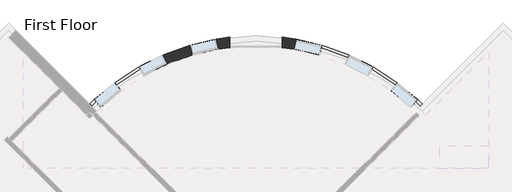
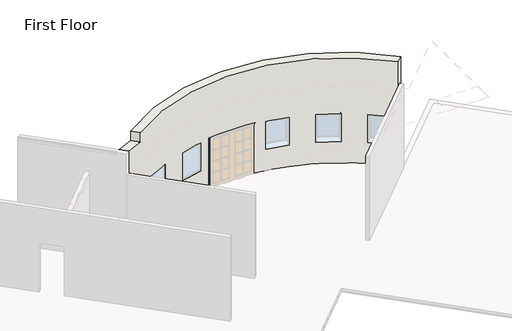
# One storey, part 5 of 7: 1 wall.
"""IFC4 building model written with IfcOpenShell, lengths in millimetres."""

from ifc_helpers import new_model, si_unit, frame, origin, place, context, project, spatial, polyline, circle_curve, ellipse_curve, element, save
from ifc_brep_helpers import plane_surface, cylinder_surface, revolved_surface, advanced_brep

model = new_model("IFC4")

# Units and contexts
model_context = context("Model", 3, world=origin())
ifc_project = project(units=[si_unit("LENGTHUNIT", "METRE", prefix="MILLI")], contexts=[model_context])

# Site, building, storey
site = spatial("IfcSite", under=ifc_project)
building = spatial("IfcBuilding", under=site)
storey = spatial("IfcBuildingStorey", under=building, Name="First Floor", Elevation=0.0)

# Wall
placement = place(None, origin())
element("IfcWall", 1, ObjectType="Exterior - Split Face and CMU on Mtl. Stud", at=placement, inside=storey, context=model_context, shape_type="AdvancedBrep", body=[
    advanced_brep(
    [(-7732.4664887, 9541.1807277, 4572.0), (2926.4294954, 8746.9912878, 4572.0), (2926.4294954, 8746.9912878, 3251.2), (-8662.486224, 8746.9912878, 3251.2), (-8662.486224, 8746.9912878, 4572.0), (-7732.4664887, 9541.1807277, 4165.6), (-3783.1764381, 11081.700582, 0.0), (-8662.486224, 8746.9912878, 0.0), (-8662.486224, 8746.9912878, 1016.0), (-8500.5279216, 8903.2474265, 1016.0), (-8500.5279216, 8903.2474265, 914.4), (-7800.1106469, 9491.0764845, 914.4), (-7800.1106469, 9491.0764845, 1016.0), (-6944.2047205, 10052.3449451, 1016.0), (-6944.2047205, 10052.3449451, 914.4), (-6125.9140626, 10460.4230739, 914.4), (-6125.9140626, 10460.4230739, 1016.0), (-5162.631365, 10806.3763718, 1016.0), (-5162.631365, 10806.3763718, 914.4), (-4271.6861959, 11012.153109, 914.4), (-4271.6861959, 11012.153109, 1016.0), (-3783.1764381, 11081.700582, 1016.0), (2926.4294954, 8746.9912878, 0.0), (-1954.3764458, 11081.8678573, 0.0), (-1954.3764458, 11081.8678573, 1016.0), (-1464.3705327, 11012.153109, 1016.0), (-1464.3705327, 11012.153109, 914.4), (-573.4253636, 10806.3763718, 914.4), (-573.4253636, 10806.3763718, 1016.0), (389.857334, 10460.4230739, 1016.0), (389.857334, 10460.4230739, 914.4), (1208.1479919, 10052.3449451, 914.4), (1208.1479919, 10052.3449451, 1016.0), (2064.0539183, 9491.0764845, 1016.0), (2064.0539183, 9491.0764845, 914.4), (2764.471193, 8903.2474265, 914.4), (2764.471193, 8903.2474265, 1016.0), (2926.4294954, 8746.9912878, 1016.0), (-1954.3764458, 11081.8678573, 2133.6), (-3783.1764381, 11081.700582, 2133.6), (-3783.1764381, 11081.700582, 2336.8), (-4271.6861959, 11012.153109, 2336.8), (-4271.6861959, 11012.153109, 2133.6), (-5162.631365, 10806.3763718, 2133.6), (-5162.631365, 10806.3763718, 2336.8), (-6125.9140626, 10460.4230739, 2336.8), (-6125.9140626, 10460.4230739, 2133.6), (-6944.2047205, 10052.3449451, 2133.6), (-6944.2047205, 10052.3449451, 2336.8), (-7800.1106469, 9491.0764845, 2336.8), (-7800.1106469, 9491.0764845, 2133.6), (-8500.5279216, 8903.2474265, 2133.6), (-8500.5279216, 8903.2474265, 2336.8), (-8662.486224, 8746.9912878, 2336.8), (-8662.486224, 8746.9912878, 3048.0), (2926.4294954, 8746.9912878, 3048.0), (2926.4294954, 8746.9912878, 2336.8), (2764.471193, 8903.2474265, 2336.8), (2764.471193, 8903.2474265, 2133.6), (2064.0539183, 9491.0764845, 2133.6), (2064.0539183, 9491.0764845, 2336.8), (1208.1479919, 10052.3449451, 2336.8), (1208.1479919, 10052.3449451, 2133.6), (389.857334, 10460.4230739, 2133.6), (389.857334, 10460.4230739, 2336.8), (-573.4253636, 10806.3763718, 2336.8), (-573.4253636, 10806.3763718, 2133.6), (-1464.3705327, 11012.153109, 2133.6), (-1464.3705327, 11012.153109, 2336.8), (-1954.3764458, 11081.8678573, 2336.8), (-1954.3764458, 11081.8678573, 1085.85), (-1954.3764458, 11081.8678573, 2133.6), (-1464.3705327, 11012.153109, 2133.6), (-1464.3705327, 11012.153109, 1085.85), (-3783.1764381, 11081.700582, 2133.6), (-3783.1764381, 11081.700582, 1085.85), (-4271.6861959, 11012.153109, 1085.85), (-4271.6861959, 11012.153109, 2133.6), (389.857334, 10460.4230739, 2133.6), (389.857334, 10460.4230739, 1085.85), (-573.4253636, 10806.3763718, 1085.85), (-573.4253636, 10806.3763718, 2133.6), (1208.1479919, 10052.3449451, 1085.85), (1208.1479919, 10052.3449451, 2133.6), (2064.0539183, 9491.0764845, 2133.6), (2064.0539183, 9491.0764845, 1085.85), (2764.471193, 8903.2474265, 1085.85), (2764.471193, 8903.2474265, 2133.6), (2926.4294954, 8746.9912878, 2133.6), (2926.4294954, 8746.9912878, 1085.85), (-6944.2047205, 10052.3449451, 2133.6), (-6944.2047205, 10052.3449451, 1085.85), (-7800.1106469, 9491.0764845, 1085.85), (-7800.1106469, 9491.0764845, 2133.6), (-6125.9140626, 10460.4230739, 1085.85), (-6125.9140626, 10460.4230739, 2133.6), (-5162.631365, 10806.3763718, 2133.6), (-5162.631365, 10806.3763718, 1085.85), (-8500.5279216, 8903.2474265, 2133.6), (-8500.5279216, 8903.2474265, 1085.85), (-8662.486224, 8746.9912878, 1085.85), (-8662.486224, 8746.9912878, 2133.6), (2677.2250436, 8497.7868359, 0.0), (2677.2250436, 8497.7868359, 4165.6), (2677.2250436, 8497.7868359, 4572.0), (-7480.1850855, 9288.8993245, 4572.0), (-7480.1850855, 9288.8993245, 4165.6), (-8413.2817722, 8497.7868359, 4572.0), (-8413.2817722, 8497.7868359, 0.0), (-3783.1439929, 10726.9805509, 0.0), (-3783.1439929, 10726.9805509, 2133.6), (-1954.3440005, 10727.1478261, 2133.6), (-1954.3440005, 10727.1478261, 0.0), (232.3230312, 10144.5305053, 914.4), (232.3230312, 10144.5305053, 2133.6), (1050.6136891, 9736.4523766, 2133.6), (1050.6136891, 9736.4523766, 914.4), (-1543.8084946, 10668.2130246, 914.4), (-1543.8084946, 10668.2130246, 2133.6), (-652.8633255, 10462.4362874, 2133.6), (-652.8633255, 10462.4362874, 914.4), (1837.1286453, 9220.6877054, 914.4), (1837.1286453, 9220.6877054, 2133.6), (2537.5459199, 8632.8586475, 2133.6), (2537.5459199, 8632.8586475, 914.4), (-6786.6704177, 9736.4523766, 914.4), (-6786.6704177, 9736.4523766, 2133.6), (-5968.3797598, 10144.5305053, 2133.6), (-5968.3797598, 10144.5305053, 914.4), (-5083.1934032, 10462.4362874, 914.4), (-5083.1934032, 10462.4362874, 2133.6), (-4192.248234, 10668.2130246, 2133.6), (-4192.248234, 10668.2130246, 914.4), (-8273.6026485, 8632.8586475, 914.4), (-8273.6026485, 8632.8586475, 2133.6), (-7573.1853739, 9220.6877054, 2133.6), (-7573.1853739, 9220.6877054, 914.4), (2861.3220456, 8681.8838379, 1016.0), (2861.3220456, 8681.8838379, 1085.85), (2861.3220456, 8681.8838379, 2133.6), (2861.3220456, 8681.8838379, 2336.8), (2861.3220456, 8681.8838379, 3048.0), (2861.3220456, 8681.8838379, 3251.2), (-8597.3787742, 8681.8838379, 3251.2), (-8597.3787742, 8681.8838379, 3048.0), (-8597.3787742, 8681.8838379, 2336.8), (-8597.3787742, 8681.8838379, 2133.6), (-8597.3787742, 8681.8838379, 1085.85), (-8597.3787742, 8681.8838379, 1016.0), (-3783.1679632, 10989.045348, 1016.0), (-3783.1679632, 10989.045348, 1085.85), (-3783.1679632, 10989.045348, 2133.6), (-1964.5986316, 10990.3620512, 2133.6), (-1954.3679708, 10989.2126232, 2133.6), (-3772.9375129, 10990.1966475, 2133.6), (-1954.3679708, 10989.2126232, 1085.85), (-1954.3679708, 10989.2126232, 1016.0), (348.7018531, 10377.8968537, 1016.0), (348.7018531, 10377.8968537, 1085.85), (348.7018531, 10377.8968537, 2133.6), (1166.992511, 9969.8187249, 2133.6), (1166.992511, 9969.8187249, 1085.85), (1166.992511, 9969.8187249, 1016.0), (1162.5426237, 9972.357721, 2133.6), (353.4072239, 10375.8701608, 2133.6), (-1485.1235209, 10922.2995387, 1016.0), (-1485.1235209, 10922.2995387, 1085.85), (-1485.1235209, 10922.2995387, 2133.6), (-594.1783517, 10716.5228014, 2133.6), (-594.1783517, 10716.5228014, 1085.85), (-594.1783517, 10716.5228014, 1016.0), (-599.0980052, 10717.9528393, 2133.6), (-1480.0750378, 10921.4272905, 2133.6), (2004.7702032, 9420.4380266, 1016.0), (2004.7702032, 9420.4380266, 1085.85), (2004.7702032, 9420.4380266, 2133.6), (2705.1874778, 8832.6089686, 2133.6), (2705.1874778, 8832.6089686, 1085.85), (2705.1874778, 8832.6089686, 1016.0), (2701.4532581, 8836.1166176, 2133.6), (2008.8724422, 9417.3688844, 2133.6), (-6903.0492396, 9969.8187249, 1016.0), (-6903.0492396, 9969.8187249, 1085.85), (-6903.0492396, 9969.8187249, 2133.6), (-6084.7585817, 10377.8968537, 2133.6), (-6084.7585817, 10377.8968537, 1085.85), (-6084.7585817, 10377.8968537, 1016.0), (-6089.4639525, 10375.8701608, 2133.6), (-6898.5993523, 9972.357721, 2133.6), (-5141.8783769, 10716.5228014, 1016.0), (-5141.8783769, 10716.5228014, 1085.85), (-5141.8783769, 10716.5228014, 2133.6), (-4250.9332077, 10922.2995387, 2133.6), (-4250.9332077, 10922.2995387, 1085.85), (-4250.9332077, 10922.2995387, 1016.0), (-4255.9816908, 10921.4272905, 2133.6), (-5136.9587234, 10717.9528393, 2133.6), (-8441.2442064, 8832.6089686, 1016.0), (-8441.2442064, 8832.6089686, 1085.85), (-8441.2442064, 8832.6089686, 2133.6), (-7740.8269318, 9420.4380266, 2133.6), (-7740.8269318, 9420.4380266, 1085.85), (-7740.8269318, 9420.4380266, 1016.0), (-7744.9291708, 9417.3688844, 2133.6), (-8437.5099867, 8836.1166176, 2133.6), (-8437.5099867, 8836.1166176, 2336.8), (-7744.9291708, 9417.3688844, 2336.8), (-6898.5993523, 9972.357721, 2336.8), (-6089.4639525, 10375.8701608, 2336.8), (-5136.9587234, 10717.9528393, 2336.8), (-4255.9816908, 10921.4272905, 2336.8), (-3772.9375129, 10990.1966475, 2336.8), (-1964.5986316, 10990.3620512, 2336.8), (-1480.0750378, 10921.4272905, 2336.8), (-599.0980052, 10717.9528393, 2336.8), (353.4072239, 10375.8701608, 2336.8), (1162.5426237, 9972.357721, 2336.8), (2008.8724422, 9417.3688844, 2336.8), (2701.4532581, 8836.1166176, 2336.8)],
    [
        (0, 1, circle_curve(frame((-2868.0283643, 2903.1420194, 4572.0), z_axis=(0.0, 0.0, -1.0), x_axis=(1.0, 0.0, 0.0)), 8229.6)),
        (1, 2),
        (2, 3, circle_curve(frame((-2868.0283643, 2903.1420194, 3251.2), z_axis=(0.0, 0.0, 1.0), x_axis=(1.0, 0.0, 0.0)), 8229.6)),
        (3, 4),
        (4, 5, ellipse_curve(frame((-2868.0283643, 2903.1420194, 4583.6416667), z_axis=(-0.2236067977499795, -0.22360679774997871, -0.9486832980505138), x_axis=(-0.6708203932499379, -0.6708203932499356, 0.31622776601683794)), 8674.7600774, 8229.6)),
        (5, 0),
        (6, 7, circle_curve(frame((-2868.0283643, 2903.1420194, 0.0), z_axis=(0.0, 0.0, 1.0), x_axis=(1.0, 0.0, 0.0)), 8229.6)),
        (7, 8),
        (8, 9, circle_curve(frame((-2868.0283643, 2903.1420194, 1016.0), z_axis=(0.0, 0.0, -1.0), x_axis=(1.0, 0.0, 0.0)), 8229.6)),
        (9, 10),
        (10, 11, circle_curve(frame((-2868.0283643, 2903.1420194, 914.4), z_axis=(0.0, 0.0, -1.0), x_axis=(1.0, 0.0, 0.0)), 8229.6)),
        (11, 12),
        (12, 13, circle_curve(frame((-2868.0283643, 2903.1420194, 1016.0), z_axis=(0.0, 0.0, -1.0), x_axis=(1.0, 0.0, 0.0)), 8229.6)),
        (13, 14),
        (14, 15, circle_curve(frame((-2868.0283643, 2903.1420194, 914.4), z_axis=(0.0, 0.0, -1.0), x_axis=(1.0, 0.0, 0.0)), 8229.6)),
        (15, 16),
        (16, 17, circle_curve(frame((-2868.0283643, 2903.1420194, 1016.0), z_axis=(0.0, 0.0, -1.0), x_axis=(1.0, 0.0, 0.0)), 8229.6)),
        (17, 18),
        (18, 19, circle_curve(frame((-2868.0283643, 2903.1420194, 914.4), z_axis=(0.0, 0.0, -1.0), x_axis=(1.0, 0.0, 0.0)), 8229.6)),
        (19, 20),
        (20, 21, circle_curve(frame((-2868.0283643, 2903.1420194, 1016.0), z_axis=(0.0, 0.0, -1.0), x_axis=(1.0, 0.0, 0.0)), 8229.6)),
        (21, 6),
        (22, 23, circle_curve(frame((-2868.0283643, 2903.1420194, 0.0), z_axis=(0.0, 0.0, 1.0), x_axis=(1.0, 0.0, 0.0)), 8229.6)),
        (23, 24),
        (24, 25, circle_curve(frame((-2868.0283643, 2903.1420194, 1016.0), z_axis=(0.0, 0.0, -1.0), x_axis=(1.0, 0.0, 0.0)), 8229.6)),
        (25, 26),
        (26, 27, circle_curve(frame((-2868.0283643, 2903.1420194, 914.4), z_axis=(0.0, 0.0, -1.0), x_axis=(1.0, 0.0, 0.0)), 8229.6)),
        (27, 28),
        (28, 29, circle_curve(frame((-2868.0283643, 2903.1420194, 1016.0), z_axis=(0.0, 0.0, -1.0), x_axis=(1.0, 0.0, 0.0)), 8229.6)),
        (29, 30),
        (30, 31, circle_curve(frame((-2868.0283643, 2903.1420194, 914.4), z_axis=(0.0, 0.0, -1.0), x_axis=(1.0, 0.0, 0.0)), 8229.6)),
        (31, 32),
        (32, 33, circle_curve(frame((-2868.0283643, 2903.1420194, 1016.0), z_axis=(0.0, 0.0, -1.0), x_axis=(1.0, 0.0, 0.0)), 8229.6)),
        (33, 34),
        (34, 35, circle_curve(frame((-2868.0283643, 2903.1420194, 914.4), z_axis=(0.0, 0.0, -1.0), x_axis=(1.0, 0.0, 0.0)), 8229.6)),
        (35, 36),
        (36, 37, circle_curve(frame((-2868.0283643, 2903.1420194, 1016.0), z_axis=(0.0, 0.0, -1.0), x_axis=(1.0, 0.0, 0.0)), 8229.6)),
        (37, 22),
        (38, 39, circle_curve(frame((-2868.0283643, 2903.1420194, 2133.6), z_axis=(0.0, 0.0, 1.0), x_axis=(1.0, 0.0, 0.0)), 8229.6)),
        (39, 40),
        (40, 41, circle_curve(frame((-2868.0283643, 2903.1420194, 2336.8), z_axis=(0.0, 0.0, 1.0), x_axis=(1.0, 0.0, 0.0)), 8229.6)),
        (41, 42),
        (42, 43, circle_curve(frame((-2868.0283643, 2903.1420194, 2133.6), z_axis=(0.0, 0.0, 1.0), x_axis=(1.0, 0.0, 0.0)), 8229.6)),
        (43, 44),
        (44, 45, circle_curve(frame((-2868.0283643, 2903.1420194, 2336.8), z_axis=(0.0, 0.0, 1.0), x_axis=(1.0, 0.0, 0.0)), 8229.6)),
        (45, 46),
        (46, 47, circle_curve(frame((-2868.0283643, 2903.1420194, 2133.6), z_axis=(0.0, 0.0, 1.0), x_axis=(1.0, 0.0, 0.0)), 8229.6)),
        (47, 48),
        (48, 49, circle_curve(frame((-2868.0283643, 2903.1420194, 2336.8), z_axis=(0.0, 0.0, 1.0), x_axis=(1.0, 0.0, 0.0)), 8229.6)),
        (49, 50),
        (50, 51, circle_curve(frame((-2868.0283643, 2903.1420194, 2133.6), z_axis=(0.0, 0.0, 1.0), x_axis=(1.0, 0.0, 0.0)), 8229.6)),
        (51, 52),
        (52, 53, circle_curve(frame((-2868.0283643, 2903.1420194, 2336.8), z_axis=(0.0, 0.0, 1.0), x_axis=(1.0, 0.0, 0.0)), 8229.6)),
        (53, 54),
        (54, 55, circle_curve(frame((-2868.0283643, 2903.1420194, 3048.0), z_axis=(0.0, 0.0, -1.0), x_axis=(1.0, 0.0, 0.0)), 8229.6)),
        (55, 56),
        (56, 57, circle_curve(frame((-2868.0283643, 2903.1420194, 2336.8), z_axis=(0.0, 0.0, 1.0), x_axis=(1.0, 0.0, 0.0)), 8229.6)),
        (57, 58),
        (58, 59, circle_curve(frame((-2868.0283643, 2903.1420194, 2133.6), z_axis=(0.0, 0.0, 1.0), x_axis=(1.0, 0.0, 0.0)), 8229.6)),
        (59, 60),
        (60, 61, circle_curve(frame((-2868.0283643, 2903.1420194, 2336.8), z_axis=(0.0, 0.0, 1.0), x_axis=(1.0, 0.0, 0.0)), 8229.6)),
        (61, 62),
        (62, 63, circle_curve(frame((-2868.0283643, 2903.1420194, 2133.6), z_axis=(0.0, 0.0, 1.0), x_axis=(1.0, 0.0, 0.0)), 8229.6)),
        (63, 64),
        (64, 65, circle_curve(frame((-2868.0283643, 2903.1420194, 2336.8), z_axis=(0.0, 0.0, 1.0), x_axis=(1.0, 0.0, 0.0)), 8229.6)),
        (65, 66),
        (66, 67, circle_curve(frame((-2868.0283643, 2903.1420194, 2133.6), z_axis=(0.0, 0.0, 1.0), x_axis=(1.0, 0.0, 0.0)), 8229.6)),
        (67, 68),
        (68, 69, circle_curve(frame((-2868.0283643, 2903.1420194, 2336.8), z_axis=(0.0, 0.0, 1.0), x_axis=(1.0, 0.0, 0.0)), 8229.6)),
        (69, 38),
        (70, 71),
        (71, 72, circle_curve(frame((-2868.0283643, 2903.1420194, 2133.6), z_axis=(0.0, 0.0, -1.0), x_axis=(1.0, 0.0, 0.0)), 8229.6)),
        (72, 73),
        (73, 70, circle_curve(frame((-2868.0283643, 2903.1420194, 1085.85), z_axis=(0.0, 0.0, 1.0), x_axis=(1.0, 0.0, 0.0)), 8229.6)),
        (74, 75),
        (75, 76, circle_curve(frame((-2868.0283643, 2903.1420194, 1085.85), z_axis=(0.0, 0.0, 1.0), x_axis=(1.0, 0.0, 0.0)), 8229.6)),
        (76, 77),
        (77, 74, circle_curve(frame((-2868.0283643, 2903.1420194, 2133.6), z_axis=(0.0, 0.0, -1.0), x_axis=(1.0, 0.0, 0.0)), 8229.6)),
        (78, 79),
        (79, 80, circle_curve(frame((-2868.0283643, 2903.1420194, 1085.85), z_axis=(0.0, 0.0, 1.0), x_axis=(1.0, 0.0, 0.0)), 8229.6)),
        (80, 81),
        (81, 78, circle_curve(frame((-2868.0283643, 2903.1420194, 2133.6), z_axis=(0.0, 0.0, -1.0), x_axis=(1.0, 0.0, 0.0)), 8229.6)),
        (82, 83),
        (83, 84, circle_curve(frame((-2868.0283643, 2903.1420194, 2133.6), z_axis=(0.0, 0.0, -1.0), x_axis=(1.0, 0.0, 0.0)), 8229.6)),
        (84, 85),
        (85, 82, circle_curve(frame((-2868.0283643, 2903.1420194, 1085.85), z_axis=(0.0, 0.0, 1.0), x_axis=(1.0, 0.0, 0.0)), 8229.6)),
        (86, 87),
        (87, 88, circle_curve(frame((-2868.0283643, 2903.1420194, 2133.6), z_axis=(0.0, 0.0, -1.0), x_axis=(1.0, 0.0, 0.0)), 8229.6)),
        (88, 89),
        (89, 86, circle_curve(frame((-2868.0283643, 2903.1420194, 1085.85), z_axis=(0.0, 0.0, 1.0), x_axis=(1.0, 0.0, 0.0)), 8229.6)),
        (90, 91),
        (91, 92, circle_curve(frame((-2868.0283643, 2903.1420194, 1085.85), z_axis=(0.0, 0.0, 1.0), x_axis=(1.0, 0.0, 0.0)), 8229.6)),
        (92, 93),
        (93, 90, circle_curve(frame((-2868.0283643, 2903.1420194, 2133.6), z_axis=(0.0, 0.0, -1.0), x_axis=(1.0, 0.0, 0.0)), 8229.6)),
        (94, 95),
        (95, 96, circle_curve(frame((-2868.0283643, 2903.1420194, 2133.6), z_axis=(0.0, 0.0, -1.0), x_axis=(1.0, 0.0, 0.0)), 8229.6)),
        (96, 97),
        (97, 94, circle_curve(frame((-2868.0283643, 2903.1420194, 1085.85), z_axis=(0.0, 0.0, 1.0), x_axis=(1.0, 0.0, 0.0)), 8229.6)),
        (98, 99),
        (99, 100, circle_curve(frame((-2868.0283643, 2903.1420194, 1085.85), z_axis=(0.0, 0.0, 1.0), x_axis=(1.0, 0.0, 0.0)), 8229.6)),
        (100, 101),
        (101, 98, circle_curve(frame((-2868.0283643, 2903.1420194, 2133.6), z_axis=(0.0, 0.0, -1.0), x_axis=(1.0, 0.0, 0.0)), 8229.6)),
        (102, 103),
        (103, 104),
        (104, 105, circle_curve(frame((-2868.0283643, 2903.1420194, 4572.0), z_axis=(0.0, 0.0, 1.0), x_axis=(1.0, 0.0, 0.0)), 7877.175)),
        (105, 106),
        (106, 107, ellipse_curve(frame((-2868.0283643, 2903.1420194, 4583.6416667), z_axis=(0.2236067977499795, 0.22360679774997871, 0.9486832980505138), x_axis=(0.6708203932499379, 0.6708203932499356, -0.31622776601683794)), 8303.2715092, 7877.175)),
        (107, 108),
        (108, 109, circle_curve(frame((-2868.0283643, 2903.1420194, 0.0), z_axis=(0.0, 0.0, -1.0), x_axis=(1.0, 0.0, 0.0)), 7877.175)),
        (109, 110),
        (110, 111, circle_curve(frame((-2868.0283643, 2903.1420194, 2133.6), z_axis=(0.0, 0.0, -1.0), x_axis=(1.0, 0.0, 0.0)), 7877.175)),
        (111, 112),
        (112, 102, circle_curve(frame((-2868.0283643, 2903.1420194, 0.0), z_axis=(0.0, 0.0, -1.0), x_axis=(1.0, 0.0, 0.0)), 7877.175)),
        (113, 114),
        (114, 115, circle_curve(frame((-2868.0283643, 2903.1420194, 2133.6), z_axis=(0.0, 0.0, -1.0), x_axis=(1.0, 0.0, 0.0)), 7877.175)),
        (115, 116),
        (116, 113, circle_curve(frame((-2868.0283643, 2903.1420194, 914.4), z_axis=(0.0, 0.0, 1.0), x_axis=(1.0, 0.0, 0.0)), 7877.175)),
        (117, 118),
        (118, 119, circle_curve(frame((-2868.0283643, 2903.1420194, 2133.6), z_axis=(0.0, 0.0, -1.0), x_axis=(1.0, 0.0, 0.0)), 7877.175)),
        (119, 120),
        (120, 117, circle_curve(frame((-2868.0283643, 2903.1420194, 914.4), z_axis=(0.0, 0.0, 1.0), x_axis=(1.0, 0.0, 0.0)), 7877.175)),
        (121, 122),
        (122, 123, circle_curve(frame((-2868.0283643, 2903.1420194, 2133.6), z_axis=(0.0, 0.0, -1.0), x_axis=(1.0, 0.0, 0.0)), 7877.175)),
        (123, 124),
        (124, 121, circle_curve(frame((-2868.0283643, 2903.1420194, 914.4), z_axis=(0.0, 0.0, 1.0), x_axis=(1.0, 0.0, 0.0)), 7877.175)),
        (125, 126),
        (126, 127, circle_curve(frame((-2868.0283643, 2903.1420194, 2133.6), z_axis=(0.0, 0.0, -1.0), x_axis=(1.0, 0.0, 0.0)), 7877.175)),
        (127, 128),
        (128, 125, circle_curve(frame((-2868.0283643, 2903.1420194, 914.4), z_axis=(0.0, 0.0, 1.0), x_axis=(1.0, 0.0, 0.0)), 7877.175)),
        (129, 130),
        (130, 131, circle_curve(frame((-2868.0283643, 2903.1420194, 2133.6), z_axis=(0.0, 0.0, -1.0), x_axis=(1.0, 0.0, 0.0)), 7877.175)),
        (131, 132),
        (132, 129, circle_curve(frame((-2868.0283643, 2903.1420194, 914.4), z_axis=(0.0, 0.0, 1.0), x_axis=(1.0, 0.0, 0.0)), 7877.175)),
        (133, 134),
        (134, 135, circle_curve(frame((-2868.0283643, 2903.1420194, 2133.6), z_axis=(0.0, 0.0, -1.0), x_axis=(1.0, 0.0, 0.0)), 7877.175)),
        (135, 136),
        (136, 133, circle_curve(frame((-2868.0283643, 2903.1420194, 914.4), z_axis=(0.0, 0.0, 1.0), x_axis=(1.0, 0.0, 0.0)), 7877.175)),
        (1, 104),
        (102, 22),
        (37, 137),
        (137, 138),
        (138, 89),
        (88, 139),
        (139, 140),
        (140, 56),
        (55, 141),
        (141, 142),
        (142, 2),
        (107, 4),
        (3, 143),
        (143, 144),
        (144, 54),
        (53, 145),
        (145, 146),
        (146, 101),
        (100, 147),
        (147, 148),
        (148, 8),
        (7, 108),
        (0, 105),
        (5, 106),
        (112, 23),
        (6, 109),
        (21, 149),
        (149, 150),
        (150, 75),
        (74, 151),
        (151, 110),
        (38, 152),
        (152, 153, circle_curve(frame((-2868.0283643, 2903.1420194, 2133.6), z_axis=(0.0, 0.0, -1.0), x_axis=(0.1110202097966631, 0.9938181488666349, 0.0)), 8137.525)),
        (153, 111),
        (151, 154, circle_curve(frame((-2868.0283643, 2903.1420194, 2133.6), z_axis=(0.0, 0.0, -1.0), x_axis=(-0.1705620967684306, 0.9853469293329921, 0.0)), 8137.525)),
        (154, 39),
        (153, 71),
        (70, 155),
        (155, 156),
        (156, 24),
        (113, 30),
        (29, 157),
        (157, 158),
        (158, 79),
        (78, 159),
        (159, 114),
        (116, 31),
        (115, 160),
        (160, 83),
        (82, 161),
        (161, 162),
        (162, 32),
        (62, 163),
        (163, 160, circle_curve(frame((-2868.0283643, 2903.1420194, 2133.6), z_axis=(0.0, 0.0, -1.0), x_axis=(0.4953067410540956, 0.868718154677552, 0.0)), 8137.525)),
        (159, 164, circle_curve(frame((-2868.0283643, 2903.1420194, 2133.6), z_axis=(0.0, 0.0, -1.0), x_axis=(0.2788231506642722, 0.9603424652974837, 0.0)), 8137.525)),
        (164, 63),
        (117, 26),
        (25, 165),
        (165, 166),
        (166, 73),
        (72, 167),
        (167, 118),
        (120, 27),
        (119, 168),
        (168, 81),
        (80, 169),
        (169, 170),
        (170, 28),
        (66, 171),
        (171, 168, circle_curve(frame((-2868.0283643, 2903.1420194, 2133.6), z_axis=(0.0, 0.0, -1.0), x_axis=(0.2788231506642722, 0.9603424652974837, 0.0)), 8137.525)),
        (167, 172, circle_curve(frame((-2868.0283643, 2903.1420194, 2133.6), z_axis=(0.0, 0.0, -1.0), x_axis=(0.1110202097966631, 0.9938181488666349, 0.0)), 8137.525)),
        (172, 67),
        (121, 34),
        (33, 173),
        (173, 174),
        (174, 85),
        (84, 175),
        (175, 122),
        (124, 35),
        (123, 176),
        (176, 87),
        (86, 177),
        (177, 178),
        (178, 36),
        (58, 179),
        (179, 176, circle_curve(frame((-2868.0283643, 2903.1420194, 2133.6), z_axis=(0.0, 0.0, -1.0), x_axis=(0.6844196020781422, 0.7290883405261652, 0.0)), 8137.525)),
        (175, 180, circle_curve(frame((-2868.0283643, 2903.1420194, 2133.6), z_axis=(0.0, 0.0, -1.0), x_axis=(0.4953067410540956, 0.868718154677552, 0.0)), 8137.525)),
        (180, 59),
        (125, 14),
        (13, 181),
        (181, 182),
        (182, 91),
        (90, 183),
        (183, 126),
        (128, 15),
        (127, 184),
        (184, 95),
        (94, 185),
        (185, 186),
        (186, 16),
        (46, 187),
        (187, 184, circle_curve(frame((-2868.0283643, 2903.1420194, 2133.6), z_axis=(0.0, 0.0, -1.0), x_axis=(-0.3958741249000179, 0.9183047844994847, 0.0)), 8137.525)),
        (183, 188, circle_curve(frame((-2868.0283643, 2903.1420194, 2133.6), z_axis=(0.0, 0.0, -1.0), x_axis=(-0.5993100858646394, 0.8005169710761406, 0.0)), 8137.525)),
        (188, 47),
        (129, 18),
        (17, 189),
        (189, 190),
        (190, 97),
        (96, 191),
        (191, 130),
        (132, 19),
        (131, 192),
        (192, 77),
        (76, 193),
        (193, 194),
        (194, 20),
        (42, 195),
        (195, 192, circle_curve(frame((-2868.0283643, 2903.1420194, 2133.6), z_axis=(0.0, 0.0, -1.0), x_axis=(-0.1705620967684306, 0.9853469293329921, 0.0)), 8137.525)),
        (191, 196, circle_curve(frame((-2868.0283643, 2903.1420194, 2133.6), z_axis=(0.0, 0.0, -1.0), x_axis=(-0.3958741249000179, 0.9183047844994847, 0.0)), 8137.525)),
        (196, 43),
        (133, 10),
        (9, 197),
        (197, 198),
        (198, 99),
        (98, 199),
        (199, 134),
        (136, 11),
        (135, 200),
        (200, 93),
        (92, 201),
        (201, 202),
        (202, 12),
        (50, 203),
        (203, 200, circle_curve(frame((-2868.0283643, 2903.1420194, 2133.6), z_axis=(0.0, 0.0, -1.0), x_axis=(-0.5993100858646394, 0.8005169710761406, 0.0)), 8137.525)),
        (199, 204, circle_curve(frame((-2868.0283643, 2903.1420194, 2133.6), z_axis=(0.0, 0.0, -1.0), x_axis=(-0.7120553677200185, 0.70212331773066, 0.0)), 8137.525)),
        (204, 51),
        (198, 147, circle_curve(frame((-2868.0283643, 2903.1420194, 1085.85), z_axis=(0.0, 0.0, 1.0), x_axis=(-0.7040995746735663, 0.7101012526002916, 0.0)), 8137.525)),
        (148, 197, circle_curve(frame((-2868.0283643, 2903.1420194, 1016.0), z_axis=(0.0, 0.0, -1.0), x_axis=(-0.7040995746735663, 0.7101012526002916, 0.0)), 8137.525)),
        (182, 201, circle_curve(frame((-2868.0283643, 2903.1420194, 1085.85), z_axis=(0.0, 0.0, 1.0), x_axis=(-0.5993100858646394, 0.8005169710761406, 0.0)), 8137.525)),
        (202, 181, circle_curve(frame((-2868.0283643, 2903.1420194, 1016.0), z_axis=(0.0, 0.0, -1.0), x_axis=(-0.5993100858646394, 0.8005169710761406, 0.0)), 8137.525)),
        (190, 185, circle_curve(frame((-2868.0283643, 2903.1420194, 1085.85), z_axis=(0.0, 0.0, 1.0), x_axis=(-0.3958741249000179, 0.9183047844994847, 0.0)), 8137.525)),
        (186, 189, circle_curve(frame((-2868.0283643, 2903.1420194, 1016.0), z_axis=(0.0, 0.0, -1.0), x_axis=(-0.3958741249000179, 0.9183047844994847, 0.0)), 8137.525)),
        (150, 193, circle_curve(frame((-2868.0283643, 2903.1420194, 1085.85), z_axis=(0.0, 0.0, 1.0), x_axis=(-0.1705620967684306, 0.9853469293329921, 0.0)), 8137.525)),
        (194, 149, circle_curve(frame((-2868.0283643, 2903.1420194, 1016.0), z_axis=(0.0, 0.0, -1.0), x_axis=(-0.1705620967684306, 0.9853469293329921, 0.0)), 8137.525)),
        (166, 155, circle_curve(frame((-2868.0283643, 2903.1420194, 1085.85), z_axis=(0.0, 0.0, 1.0), x_axis=(0.1110202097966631, 0.9938181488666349, 0.0)), 8137.525)),
        (156, 165, circle_curve(frame((-2868.0283643, 2903.1420194, 1016.0), z_axis=(0.0, 0.0, -1.0), x_axis=(0.1110202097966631, 0.9938181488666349, 0.0)), 8137.525)),
        (158, 169, circle_curve(frame((-2868.0283643, 2903.1420194, 1085.85), z_axis=(0.0, 0.0, 1.0), x_axis=(0.2788231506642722, 0.9603424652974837, 0.0)), 8137.525)),
        (170, 157, circle_curve(frame((-2868.0283643, 2903.1420194, 1016.0), z_axis=(0.0, 0.0, -1.0), x_axis=(0.2788231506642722, 0.9603424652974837, 0.0)), 8137.525)),
        (174, 161, circle_curve(frame((-2868.0283643, 2903.1420194, 1085.85), z_axis=(0.0, 0.0, 1.0), x_axis=(0.4953067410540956, 0.868718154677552, 0.0)), 8137.525)),
        (162, 173, circle_curve(frame((-2868.0283643, 2903.1420194, 1016.0), z_axis=(0.0, 0.0, -1.0), x_axis=(0.4953067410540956, 0.868718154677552, 0.0)), 8137.525)),
        (138, 177, circle_curve(frame((-2868.0283643, 2903.1420194, 1085.85), z_axis=(0.0, 0.0, 1.0), x_axis=(0.6844196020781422, 0.7290883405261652, 0.0)), 8137.525)),
        (178, 137, circle_curve(frame((-2868.0283643, 2903.1420194, 1016.0), z_axis=(0.0, 0.0, -1.0), x_axis=(0.6844196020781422, 0.7290883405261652, 0.0)), 8137.525)),
        (205, 52),
        (204, 205),
        (146, 199, circle_curve(frame((-2868.0283643, 2903.1420194, 2133.6), z_axis=(0.0, 0.0, -1.0), x_axis=(-0.7120553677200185, 0.70212331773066, 0.0)), 8137.525)),
        (145, 205, circle_curve(frame((-2868.0283643, 2903.1420194, 2336.8), z_axis=(0.0, 0.0, -1.0), x_axis=(-0.7120553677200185, 0.70212331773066, 0.0)), 8137.525)),
        (206, 203),
        (49, 206),
        (207, 48),
        (188, 207),
        (200, 183, circle_curve(frame((-2868.0283643, 2903.1420194, 2133.6), z_axis=(0.0, 0.0, -1.0), x_axis=(-0.5993100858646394, 0.8005169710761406, 0.0)), 8137.525)),
        (206, 207, circle_curve(frame((-2868.0283643, 2903.1420194, 2336.8), z_axis=(0.0, 0.0, -1.0), x_axis=(-0.5993100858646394, 0.8005169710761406, 0.0)), 8137.525)),
        (208, 187),
        (45, 208),
        (209, 44),
        (196, 209),
        (184, 191, circle_curve(frame((-2868.0283643, 2903.1420194, 2133.6), z_axis=(0.0, 0.0, -1.0), x_axis=(-0.3958741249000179, 0.9183047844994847, 0.0)), 8137.525)),
        (208, 209, circle_curve(frame((-2868.0283643, 2903.1420194, 2336.8), z_axis=(0.0, 0.0, -1.0), x_axis=(-0.3958741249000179, 0.9183047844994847, 0.0)), 8137.525)),
        (210, 195),
        (41, 210),
        (211, 40),
        (154, 211),
        (192, 151, circle_curve(frame((-2868.0283643, 2903.1420194, 2133.6), z_axis=(0.0, 0.0, -1.0), x_axis=(-0.1705620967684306, 0.9853469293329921, 0.0)), 8137.525)),
        (210, 211, circle_curve(frame((-2868.0283643, 2903.1420194, 2336.8), z_axis=(0.0, 0.0, -1.0), x_axis=(-0.1705620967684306, 0.9853469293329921, 0.0)), 8137.525)),
        (212, 152),
        (69, 212),
        (213, 68),
        (172, 213),
        (153, 167, circle_curve(frame((-2868.0283643, 2903.1420194, 2133.6), z_axis=(0.0, 0.0, -1.0), x_axis=(0.1110202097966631, 0.9938181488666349, 0.0)), 8137.525)),
        (212, 213, circle_curve(frame((-2868.0283643, 2903.1420194, 2336.8), z_axis=(0.0, 0.0, -1.0), x_axis=(0.1110202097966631, 0.9938181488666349, 0.0)), 8137.525)),
        (214, 171),
        (65, 214),
        (215, 64),
        (164, 215),
        (168, 159, circle_curve(frame((-2868.0283643, 2903.1420194, 2133.6), z_axis=(0.0, 0.0, -1.0), x_axis=(0.2788231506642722, 0.9603424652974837, 0.0)), 8137.525)),
        (214, 215, circle_curve(frame((-2868.0283643, 2903.1420194, 2336.8), z_axis=(0.0, 0.0, -1.0), x_axis=(0.2788231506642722, 0.9603424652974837, 0.0)), 8137.525)),
        (216, 163),
        (61, 216),
        (217, 60),
        (180, 217),
        (160, 175, circle_curve(frame((-2868.0283643, 2903.1420194, 2133.6), z_axis=(0.0, 0.0, -1.0), x_axis=(0.4953067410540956, 0.868718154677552, 0.0)), 8137.525)),
        (216, 217, circle_curve(frame((-2868.0283643, 2903.1420194, 2336.8), z_axis=(0.0, 0.0, -1.0), x_axis=(0.4953067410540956, 0.868718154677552, 0.0)), 8137.525)),
        (218, 179),
        (57, 218),
        (176, 139, circle_curve(frame((-2868.0283643, 2903.1420194, 2133.6), z_axis=(0.0, 0.0, -1.0), x_axis=(0.6844196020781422, 0.7290883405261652, 0.0)), 8137.525)),
        (218, 140, circle_curve(frame((-2868.0283643, 2903.1420194, 2336.8), z_axis=(0.0, 0.0, -1.0), x_axis=(0.6844196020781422, 0.7290883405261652, 0.0)), 8137.525)),
        (144, 141, circle_curve(frame((-2868.0283643, 2903.1420194, 3048.0), z_axis=(0.0, 0.0, -1.0), x_axis=(-0.7120553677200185, 0.70212331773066, 0.0)), 8137.525)),
        (143, 142, circle_curve(frame((-2868.0283643, 2903.1420194, 3251.2), z_axis=(0.0, 0.0, -1.0), x_axis=(-0.7120553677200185, 0.70212331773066, 0.0)), 8137.525)),
    ],
    [
        cylinder_surface(frame((-2868.0283643, 2903.1420194, 0.0), z_axis=(0.0, 0.0, 1.0), x_axis=(1.0, 0.0, 0.0)), 8229.6),
        revolved_surface(polyline([(5009.146635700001, 2903.1420194, 0.0), (5009.146635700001, 2903.1420194, 7209.366666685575)]), (-2868.0283643, 2903.1420194, 0.0), (0.0, 0.0, -1.0)),
        plane_surface(frame((2735.6514552, 8556.2132476, 0.0), z_axis=(0.707106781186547, -0.7071067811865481, 0.0), x_axis=(-0.7071067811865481, -0.707106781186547, 0.0))),
        plane_surface(frame((-11489.0742405, 11573.5793042, 0.0), z_axis=(-0.7071067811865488, -0.7071067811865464, 0.0), x_axis=(-0.7071067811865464, 0.7071067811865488, 0.0))),
        plane_surface(frame((5361.5716357, 2903.1420194, 4572.0), z_axis=(0.0, 0.0, 1.0), x_axis=(0.0, 1.0, 0.0))),
        plane_surface(frame((-6316.4467148, 8125.1609538, 4165.6), z_axis=(-0.7071067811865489, -0.7071067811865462, 0.0), x_axis=(-0.7071067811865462, 0.7071067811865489, 0.0))),
        plane_surface(frame((-1143.8191891, 2952.533428, 4165.6), z_axis=(0.2236067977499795, 0.22360679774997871, 0.9486832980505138), x_axis=(-0.7071067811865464, 0.7071067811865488, 0.0))),
        plane_surface(frame((-11364.4731869, 11448.9782506, 0.0), z_axis=(0.0, 0.0, -1.0), x_axis=(-0.7071067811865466, 0.7071067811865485, 0.0))),
        plane_surface(frame((-3783.3158341, 12605.7005756, 0.0), z_axis=(0.9999999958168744, 9.14672155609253e-05, 0.0), x_axis=(9.14672155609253e-05, -0.9999999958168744, 0.0))),
        plane_surface(frame((-3783.3158341, 12605.7005756, 2133.6), z_axis=(0.0, 0.0, -1.0000000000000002), x_axis=(9.14672155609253e-05, -0.9999999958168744, 0.0))),
        plane_surface(frame((-1954.5158418, 12605.8678509, 2133.6), z_axis=(-0.9999999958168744, -9.146721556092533e-05, 0.0), x_axis=(9.146721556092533e-05, -0.9999999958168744, 0.0))),
        plane_surface(frame((389.857334, 10460.4230739, 2133.6), z_axis=(0.8948935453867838, -0.44627966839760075, 0.0), x_axis=(-0.44627966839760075, -0.8948935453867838, 0.0))),
        plane_surface(frame((389.857334, 10460.4230739, 914.4), z_axis=(0.0, 0.0, 1.0000000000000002), x_axis=(-0.44627966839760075, -0.8948935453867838, 0.0))),
        plane_surface(frame((1208.1479919, 10052.3449451, 914.4), z_axis=(-0.8948935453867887, 0.4462796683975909, 0.0), x_axis=(-0.4462796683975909, -0.8948935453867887, 0.0))),
        plane_surface(frame((1208.1479919, 10052.3449451, 2133.6), z_axis=(0.0, 0.0, -1.0000000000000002), x_axis=(-0.4462796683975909, -0.8948935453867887, 0.0))),
        plane_surface(frame((-1464.3705327, 11012.153109, 2133.6), z_axis=(0.974349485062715, -0.2250401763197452, 0.0), x_axis=(-0.2250401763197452, -0.974349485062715, 0.0))),
        plane_surface(frame((-1464.3705327, 11012.153109, 914.4), z_axis=(0.0, 0.0, 1.0), x_axis=(-0.2250401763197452, -0.974349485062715, 0.0))),
        plane_surface(frame((-573.4253636, 10806.3763718, 914.4), z_axis=(-0.9743494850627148, 0.22504017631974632, 0.0), x_axis=(-0.22504017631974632, -0.9743494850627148, 0.0))),
        plane_surface(frame((-573.4253636, 10806.3763718, 2133.6), z_axis=(0.0, 0.0, -1.0), x_axis=(-0.22504017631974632, -0.9743494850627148, 0.0))),
        plane_surface(frame((2064.0539183, 9491.0764845, 2133.6), z_axis=(0.7659856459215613, -0.6428576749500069, 0.0), x_axis=(-0.6428576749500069, -0.7659856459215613, 0.0))),
        plane_surface(frame((2064.0539183, 9491.0764845, 914.4), z_axis=(0.0, 0.0, 1.0000000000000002), x_axis=(-0.6428576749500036, -0.765985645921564, 0.0))),
        plane_surface(frame((2764.471193, 8903.2474265, 914.4), z_axis=(-0.7659856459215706, 0.6428576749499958, 0.0), x_axis=(-0.6428576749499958, -0.7659856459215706, 0.0))),
        plane_surface(frame((2764.471193, 8903.2474265, 2133.6), z_axis=(0.0, 0.0, -1.0000000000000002), x_axis=(-0.6428576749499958, -0.7659856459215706, 0.0))),
        plane_surface(frame((-6944.2047205, 10052.3449451, 2133.6), z_axis=(0.8948935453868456, 0.4462796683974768, 0.0), x_axis=(0.4462796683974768, -0.8948935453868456, 0.0))),
        plane_surface(frame((-6944.2047205, 10052.3449451, 914.4), z_axis=(0.0, 0.0, 1.0000000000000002), x_axis=(0.44627966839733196, -0.8948935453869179, 0.0))),
        plane_surface(frame((-6125.9140626, 10460.4230739, 914.4), z_axis=(-0.8948935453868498, -0.4462796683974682, 0.0), x_axis=(0.4462796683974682, -0.8948935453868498, 0.0))),
        plane_surface(frame((-6125.9140626, 10460.4230739, 2133.6), z_axis=(0.0, 0.0, -1.0000000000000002), x_axis=(0.4462796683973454, -0.8948935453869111, 0.0))),
        plane_surface(frame((-4819.6701363, 9321.4677565, 2133.6), z_axis=(0.9743494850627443, 0.22504017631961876, 0.0), x_axis=(-0.22504017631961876, 0.9743494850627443, 0.0))),
        plane_surface(frame((-4819.6701363, 9321.4677565, 914.4), z_axis=(0.0, 0.0, 1.0), x_axis=(-0.22504017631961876, 0.9743494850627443, 0.0))),
        plane_surface(frame((-3928.7249672, 9527.2444938, 914.4), z_axis=(-0.9743494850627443, -0.22504017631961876, 0.0), x_axis=(-0.22504017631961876, 0.9743494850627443, 0.0))),
        plane_surface(frame((-3928.7249672, 9527.2444938, 2133.6), z_axis=(0.0, 0.0, -1.0), x_axis=(-0.22504017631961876, 0.9743494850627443, 0.0))),
        plane_surface(frame((-8500.5279216, 8903.2474265, 2133.6), z_axis=(0.7659856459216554, 0.6428576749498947, 0.0), x_axis=(0.6428576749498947, -0.7659856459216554, 0.0))),
        plane_surface(frame((-8500.5279216, 8903.2474265, 914.4), z_axis=(0.0, 0.0, 1.0000000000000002), x_axis=(0.64285767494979, -0.7659856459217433, 0.0))),
        plane_surface(frame((-7800.1106469, 9491.0764845, 914.4), z_axis=(-0.7659856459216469, -0.6428576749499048, 0.0), x_axis=(0.6428576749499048, -0.7659856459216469, 0.0))),
        plane_surface(frame((-7800.1106469, 9491.0764845, 2133.6), z_axis=(0.0, 0.0, -1.0000000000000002), x_axis=(0.642857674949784, -0.7659856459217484, 0.0))),
        plane_surface(frame((-2868.0283643, 2903.1420194, 1085.85), z_axis=(0.0, 0.0, -1.0), x_axis=(-0.7040995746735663, 0.7101012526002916, 0.0))),
        plane_surface(frame((-2868.0283643, 2903.1420194, 1016.0), z_axis=(0.0, 0.0, 1.0), x_axis=(-0.7040995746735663, 0.7101012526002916, 0.0))),
        cylinder_surface(frame((-2868.0283643, 2903.1420194, 1016.0), z_axis=(0.0, 0.0, -1.0), x_axis=(-0.7040995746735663, 0.7101012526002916, 0.0)), 8137.525),
        plane_surface(frame((-2868.0283643, 2903.1420194, 1085.85), z_axis=(0.0, 0.0, -1.0), x_axis=(-0.5993100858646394, 0.8005169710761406, 0.0))),
        plane_surface(frame((-2868.0283643, 2903.1420194, 1016.0), z_axis=(0.0, 0.0, 1.0), x_axis=(-0.5993100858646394, 0.8005169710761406, 0.0))),
        cylinder_surface(frame((-2868.0283643, 2903.1420194, 1016.0), z_axis=(0.0, 0.0, -1.0), x_axis=(-0.5993100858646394, 0.8005169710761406, 0.0)), 8137.525),
        plane_surface(frame((-2868.0283643, 2903.1420194, 1085.85), z_axis=(0.0, 0.0, -1.0), x_axis=(-0.3958741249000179, 0.9183047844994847, 0.0))),
        plane_surface(frame((-2868.0283643, 2903.1420194, 1016.0), z_axis=(0.0, 0.0, 1.0), x_axis=(-0.3958741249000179, 0.9183047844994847, 0.0))),
        cylinder_surface(frame((-2868.0283643, 2903.1420194, 1016.0), z_axis=(0.0, 0.0, -1.0), x_axis=(-0.3958741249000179, 0.9183047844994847, 0.0)), 8137.525),
        plane_surface(frame((-2868.0283643, 2903.1420194, 1085.85), z_axis=(0.0, 0.0, -1.0000000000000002), x_axis=(-0.17056209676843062, 0.9853469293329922, 0.0))),
        plane_surface(frame((-2868.0283643, 2903.1420194, 1016.0), z_axis=(0.0, 0.0, 1.0000000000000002), x_axis=(-0.17056209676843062, 0.9853469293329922, 0.0))),
        cylinder_surface(frame((-2868.0283643, 2903.1420194, 1016.0), z_axis=(0.0, 0.0, -1.0), x_axis=(-0.1705620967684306, 0.9853469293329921, 0.0)), 8137.525),
        plane_surface(frame((-2868.0283643, 2903.1420194, 1085.85), z_axis=(0.0, 0.0, -1.0000000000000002), x_axis=(0.11102020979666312, 0.993818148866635, 0.0))),
        plane_surface(frame((-2868.0283643, 2903.1420194, 1016.0), z_axis=(0.0, 0.0, 1.0000000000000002), x_axis=(0.11102020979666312, 0.993818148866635, 0.0))),
        cylinder_surface(frame((-2868.0283643, 2903.1420194, 1016.0), z_axis=(0.0, 0.0, -1.0), x_axis=(0.1110202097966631, 0.9938181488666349, 0.0)), 8137.525),
        plane_surface(frame((-2868.0283643, 2903.1420194, 1085.85), z_axis=(0.0, 0.0, -1.0), x_axis=(0.2788231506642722, 0.9603424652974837, 0.0))),
        plane_surface(frame((-2868.0283643, 2903.1420194, 1016.0), z_axis=(0.0, 0.0, 1.0), x_axis=(0.2788231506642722, 0.9603424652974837, 0.0))),
        cylinder_surface(frame((-2868.0283643, 2903.1420194, 1016.0), z_axis=(0.0, 0.0, -1.0), x_axis=(0.2788231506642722, 0.9603424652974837, 0.0)), 8137.525),
        plane_surface(frame((-2868.0283643, 2903.1420194, 1085.85), z_axis=(0.0, 0.0, -1.0), x_axis=(0.4953067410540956, 0.868718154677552, 0.0))),
        plane_surface(frame((-2868.0283643, 2903.1420194, 1016.0), z_axis=(0.0, 0.0, 1.0), x_axis=(0.4953067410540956, 0.868718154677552, 0.0))),
        cylinder_surface(frame((-2868.0283643, 2903.1420194, 1016.0), z_axis=(0.0, 0.0, -1.0), x_axis=(0.4953067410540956, 0.868718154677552, 0.0)), 8137.525),
        plane_surface(frame((-2868.0283643, 2903.1420194, 1085.85), z_axis=(0.0, 0.0, -1.0), x_axis=(0.6844196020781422, 0.7290883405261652, 0.0))),
        plane_surface(frame((-2868.0283643, 2903.1420194, 1016.0), z_axis=(0.0, 0.0, 1.0), x_axis=(0.6844196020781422, 0.7290883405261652, 0.0))),
        cylinder_surface(frame((-2868.0283643, 2903.1420194, 1016.0), z_axis=(0.0, 0.0, -1.0), x_axis=(0.6844196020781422, 0.7290883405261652, 0.0)), 8137.525),
        plane_surface(frame((-2868.0283643, 2903.1420194, 2133.6), z_axis=(-0.7290883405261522, -0.6844196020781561, 0.0), x_axis=(-0.6844196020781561, 0.7290883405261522, 0.0))),
        plane_surface(frame((-2868.0283643, 2903.1420194, 2133.6), z_axis=(0.0, 0.0, 1.0), x_axis=(-0.7120553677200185, 0.70212331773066, 0.0))),
        cylinder_surface(frame((-2868.0283643, 2903.1420194, 2133.6), z_axis=(0.0, 0.0, -1.0), x_axis=(-0.7120553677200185, 0.70212331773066, 0.0)), 8137.525),
        plane_surface(frame((-2868.0283643, 2903.1420194, 2336.8), z_axis=(0.0, 0.0, -1.0), x_axis=(-0.7120553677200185, 0.70212331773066, 0.0))),
        plane_surface(frame((-2868.0283643, 2903.1420194, 2133.6), z_axis=(0.8005169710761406, 0.5993100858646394, 0.0), x_axis=(-0.5993100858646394, 0.8005169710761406, 0.0))),
        plane_surface(frame((-2868.0283643, 2903.1420194, 2133.6), z_axis=(-0.8687181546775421, -0.4953067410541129, 0.0), x_axis=(-0.4953067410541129, 0.8687181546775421, 0.0))),
        plane_surface(frame((-2868.0283643, 2903.1420194, 2133.6), z_axis=(0.0, 0.0, 1.0), x_axis=(-0.5993100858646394, 0.8005169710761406, 0.0))),
        cylinder_surface(frame((-2868.0283643, 2903.1420194, 2133.6), z_axis=(0.0, 0.0, -1.0), x_axis=(-0.5993100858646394, 0.8005169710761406, 0.0)), 8137.525),
        plane_surface(frame((-2868.0283643, 2903.1420194, 2336.8), z_axis=(0.0, 0.0, -1.0), x_axis=(-0.5993100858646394, 0.8005169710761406, 0.0))),
        plane_surface(frame((-2868.0283643, 2903.1420194, 2133.6), z_axis=(0.9183047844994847, 0.3958741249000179, 0.0), x_axis=(-0.3958741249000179, 0.9183047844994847, 0.0))),
        plane_surface(frame((-2868.0283643, 2903.1420194, 2133.6), z_axis=(-0.9603424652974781, -0.2788231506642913, 0.0), x_axis=(-0.2788231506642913, 0.9603424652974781, 0.0))),
        plane_surface(frame((-2868.0283643, 2903.1420194, 2133.6), z_axis=(0.0, 0.0, 1.0), x_axis=(-0.3958741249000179, 0.9183047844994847, 0.0))),
        cylinder_surface(frame((-2868.0283643, 2903.1420194, 2133.6), z_axis=(0.0, 0.0, -1.0), x_axis=(-0.3958741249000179, 0.9183047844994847, 0.0)), 8137.525),
        plane_surface(frame((-2868.0283643, 2903.1420194, 2336.8), z_axis=(0.0, 0.0, -1.0), x_axis=(-0.3958741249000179, 0.9183047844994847, 0.0))),
        plane_surface(frame((-2868.0283643, 2903.1420194, 2133.6), z_axis=(0.9853469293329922, 0.17056209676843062, 0.0), x_axis=(-0.17056209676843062, 0.9853469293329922, 0.0))),
        plane_surface(frame((-2868.0283643, 2903.1420194, 2133.6), z_axis=(-0.9937978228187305, -0.1112020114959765, 0.0), x_axis=(-0.1112020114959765, 0.9937978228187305, 0.0))),
        plane_surface(frame((-2868.0283643, 2903.1420194, 2133.6), z_axis=(0.0, 0.0, 1.0000000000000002), x_axis=(-0.17056209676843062, 0.9853469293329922, 0.0))),
        cylinder_surface(frame((-2868.0283643, 2903.1420194, 2133.6), z_axis=(0.0, 0.0, -1.0), x_axis=(-0.1705620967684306, 0.9853469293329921, 0.0)), 8137.525),
        plane_surface(frame((-2868.0283643, 2903.1420194, 2336.8), z_axis=(0.0, 0.0, -1.0000000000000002), x_axis=(-0.17056209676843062, 0.9853469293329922, 0.0))),
        plane_surface(frame((-2868.0283643, 2903.1420194, 2133.6), z_axis=(0.993818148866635, -0.11102020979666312, 0.0), x_axis=(0.11102020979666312, 0.993818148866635, 0.0))),
        plane_surface(frame((-2868.0283643, 2903.1420194, 2133.6), z_axis=(-0.9853469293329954, 0.17056209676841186, 0.0), x_axis=(0.17056209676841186, 0.9853469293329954, 0.0))),
        plane_surface(frame((-2868.0283643, 2903.1420194, 2133.6), z_axis=(0.0, 0.0, 1.0000000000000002), x_axis=(0.11102020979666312, 0.993818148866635, 0.0))),
        cylinder_surface(frame((-2868.0283643, 2903.1420194, 2133.6), z_axis=(0.0, 0.0, -1.0), x_axis=(0.1110202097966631, 0.9938181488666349, 0.0)), 8137.525),
        plane_surface(frame((-2868.0283643, 2903.1420194, 2336.8), z_axis=(0.0, 0.0, -1.0000000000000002), x_axis=(0.11102020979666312, 0.993818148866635, 0.0))),
        plane_surface(frame((-2868.0283643, 2903.1420194, 2133.6), z_axis=(0.9603424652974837, -0.2788231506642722, 0.0), x_axis=(0.2788231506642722, 0.9603424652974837, 0.0))),
        plane_surface(frame((-2868.0283643, 2903.1420194, 2133.6), z_axis=(-0.918304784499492, 0.3958741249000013, 0.0), x_axis=(0.3958741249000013, 0.918304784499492, 0.0))),
        plane_surface(frame((-2868.0283643, 2903.1420194, 2133.6), z_axis=(0.0, 0.0, 1.0), x_axis=(0.2788231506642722, 0.9603424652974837, 0.0))),
        cylinder_surface(frame((-2868.0283643, 2903.1420194, 2133.6), z_axis=(0.0, 0.0, -1.0), x_axis=(0.2788231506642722, 0.9603424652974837, 0.0)), 8137.525),
        plane_surface(frame((-2868.0283643, 2903.1420194, 2336.8), z_axis=(0.0, 0.0, -1.0), x_axis=(0.2788231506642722, 0.9603424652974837, 0.0))),
        plane_surface(frame((-2868.0283643, 2903.1420194, 2133.6), z_axis=(0.868718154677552, -0.4953067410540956, 0.0), x_axis=(0.4953067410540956, 0.868718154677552, 0.0))),
        plane_surface(frame((-2868.0283643, 2903.1420194, 2133.6), z_axis=(-0.800516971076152, 0.5993100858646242, 0.0), x_axis=(0.5993100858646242, 0.800516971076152, 0.0))),
        plane_surface(frame((-2868.0283643, 2903.1420194, 2133.6), z_axis=(0.0, 0.0, 1.0), x_axis=(0.4953067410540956, 0.868718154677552, 0.0))),
        cylinder_surface(frame((-2868.0283643, 2903.1420194, 2133.6), z_axis=(0.0, 0.0, -1.0), x_axis=(0.4953067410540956, 0.868718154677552, 0.0)), 8137.525),
        plane_surface(frame((-2868.0283643, 2903.1420194, 2336.8), z_axis=(0.0, 0.0, -1.0), x_axis=(0.4953067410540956, 0.868718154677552, 0.0))),
        plane_surface(frame((-2868.0283643, 2903.1420194, 2133.6), z_axis=(0.7290883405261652, -0.6844196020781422, 0.0), x_axis=(0.6844196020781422, 0.7290883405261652, 0.0))),
        plane_surface(frame((-2868.0283643, 2903.1420194, 2133.6), z_axis=(0.0, 0.0, 1.0), x_axis=(0.6844196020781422, 0.7290883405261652, 0.0))),
        cylinder_surface(frame((-2868.0283643, 2903.1420194, 2133.6), z_axis=(0.0, 0.0, -1.0), x_axis=(0.6844196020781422, 0.7290883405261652, 0.0)), 8137.525),
        plane_surface(frame((-2868.0283643, 2903.1420194, 2336.8), z_axis=(0.0, 0.0, -1.0), x_axis=(0.6844196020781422, 0.7290883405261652, 0.0))),
        plane_surface(frame((-2868.0283643, 2903.1420194, 3048.0), z_axis=(0.0, 0.0, 1.0), x_axis=(-0.7120553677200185, 0.70212331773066, 0.0))),
        cylinder_surface(frame((-2868.0283643, 2903.1420194, 3048.0), z_axis=(0.0, 0.0, -1.0), x_axis=(-0.7120553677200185, 0.70212331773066, 0.0)), 8137.525),
        plane_surface(frame((-2868.0283643, 2903.1420194, 3251.2), z_axis=(0.0, 0.0, -1.0), x_axis=(-0.7120553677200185, 0.70212331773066, 0.0))),
    ],
    [
        (0, [[1, 2, 3, 4, 5, 6]]),
        (0, [[7, 8, 9, 10, 11, 12, 13, 14, 15, 16, 17, 18, 19, 20, 21, 22]]),
        (0, [[23, 24, 25, 26, 27, 28, 29, 30, 31, 32, 33, 34, 35, 36, 37, 38]]),
        (0, [[39, 40, 41, 42, 43, 44, 45, 46, 47, 48, 49, 50, 51, 52, 53, 54, 55, 56, 57, 58, 59, 60, 61, 62, 63, 64, 65, 66, 67, 68, 69, 70]]),
        (0, [[71, 72, 73, 74]]),
        (0, [[75, 76, 77, 78]]),
        (0, [[79, 80, 81, 82]]),
        (0, [[83, 84, 85, 86]]),
        (0, [[87, 88, 89, 90]]),
        (0, [[91, 92, 93, 94]]),
        (0, [[95, 96, 97, 98]]),
        (0, [[99, 100, 101, 102]]),
        (1, [[103, 104, 105, 106, 107, 108, 109, 110, 111, 112, 113], [114, 115, 116, 117], [118, 119, 120, 121], [122, 123, 124, 125], [126, 127, 128, 129], [130, 131, 132, 133], [134, 135, 136, 137]]),
        (2, [[138, -104, -103, 139, -38, 140, 141, 142, -89, 143, 144, 145, -56, 146, 147, 148, -2]]),
        (3, [[-108, 149, -4, 150, 151, 152, -54, 153, 154, 155, -101, 156, 157, 158, -8, 159]]),
        (4, [[-138, -1, 160, -105]]),
        (5, [[-160, -6, 161, -106]]),
        (6, [[-5, -149, -107, -161]]),
        (7, [[-139, -113, 162, -23]]),
        (7, [[-159, -7, 163, -109]]),
        (8, [[-110, -163, -22, 164, 165, 166, -75, 167, 168]]),
        (9, [[-39, 169, 170, 171, -111, -168, 172, 173]]),
        (10, [[-112, -171, 174, -71, 175, 176, 177, -24, -162]]),
        (11, [[-114, 178, -30, 179, 180, 181, -79, 182, 183]]),
        (12, [[-31, -178, -117, 184]]),
        (13, [[-116, 185, 186, -83, 187, 188, 189, -32, -184]]),
        (14, [[-63, 190, 191, -185, -115, -183, 192, 193]]),
        (15, [[-118, 194, -26, 195, 196, 197, -73, 198, 199]]),
        (16, [[-27, -194, -121, 200]]),
        (17, [[-120, 201, 202, -81, 203, 204, 205, -28, -200]]),
        (18, [[-67, 206, 207, -201, -119, -199, 208, 209]]),
        (19, [[-122, 210, -34, 211, 212, 213, -85, 214, 215]]),
        (20, [[-35, -210, -125, 216]]),
        (21, [[-124, 217, 218, -87, 219, 220, 221, -36, -216]]),
        (22, [[-59, 222, 223, -217, -123, -215, 224, 225]]),
        (23, [[-126, 226, -14, 227, 228, 229, -91, 230, 231]]),
        (24, [[-15, -226, -129, 232]]),
        (25, [[-128, 233, 234, -95, 235, 236, 237, -16, -232]]),
        (26, [[-47, 238, 239, -233, -127, -231, 240, 241]]),
        (27, [[242, -18, 243, 244, 245, -97, 246, 247, -130]]),
        (28, [[-242, -133, 248, -19]]),
        (29, [[-248, -132, 249, 250, -77, 251, 252, 253, -20]]),
        (30, [[-43, 254, 255, -249, -131, -247, 256, 257]]),
        (31, [[-134, 258, -10, 259, 260, 261, -99, 262, 263]]),
        (32, [[-11, -258, -137, 264]]),
        (33, [[-136, 265, 266, -93, 267, 268, 269, -12, -264]]),
        (34, [[-51, 270, 271, -265, -135, -263, 272, 273]]),
        (35, [[274, -156, -100, -261]]),
        (36, [[275, -259, -9, -158]]),
        (37, [[-274, -260, -275, -157]]),
        (38, [[276, -267, -92, -229]]),
        (39, [[277, -227, -13, -269]]),
        (40, [[-276, -228, -277, -268]]),
        (41, [[278, -235, -98, -245]]),
        (42, [[279, -243, -17, -237]]),
        (43, [[-278, -244, -279, -236]]),
        (44, [[280, -251, -76, -166]]),
        (45, [[281, -164, -21, -253]]),
        (46, [[-280, -165, -281, -252]]),
        (47, [[282, -175, -74, -197]]),
        (48, [[283, -195, -25, -177]]),
        (49, [[-282, -196, -283, -176]]),
        (50, [[284, -203, -80, -181]]),
        (51, [[285, -179, -29, -205]]),
        (52, [[-284, -180, -285, -204]]),
        (53, [[286, -187, -86, -213]]),
        (54, [[287, -211, -33, -189]]),
        (55, [[-286, -212, -287, -188]]),
        (56, [[288, -219, -90, -142]]),
        (57, [[289, -140, -37, -221]]),
        (58, [[-288, -141, -289, -220]]),
        (59, [[290, -52, -273, 291]]),
        (60, [[292, -262, -102, -155]]),
        (61, [[-291, -272, -292, -154, 293]]),
        (62, [[-290, -293, -153, -53]]),
        (63, [[294, -270, -50, 295]]),
        (64, [[296, -48, -241, 297]]),
        (65, [[298, -230, -94, -266]]),
        (66, [[-294, 299, -297, -240, -298, -271]]),
        (67, [[-295, -49, -296, -299]]),
        (68, [[300, -238, -46, 301]]),
        (69, [[302, -44, -257, 303]]),
        (70, [[304, -246, -96, -234]]),
        (71, [[-300, 305, -303, -256, -304, -239]]),
        (72, [[-301, -45, -302, -305]]),
        (73, [[306, -254, -42, 307]]),
        (74, [[308, -40, -173, 309]]),
        (75, [[310, -167, -78, -250]]),
        (76, [[-306, 311, -309, -172, -310, -255]]),
        (77, [[-307, -41, -308, -311]]),
        (78, [[312, -169, -70, 313]]),
        (79, [[314, -68, -209, 315]]),
        (80, [[316, -198, -72, -174]]),
        (81, [[-312, 317, -315, -208, -316, -170]]),
        (82, [[-313, -69, -314, -317]]),
        (83, [[318, -206, -66, 319]]),
        (84, [[320, -64, -193, 321]]),
        (85, [[322, -182, -82, -202]]),
        (86, [[-318, 323, -321, -192, -322, -207]]),
        (87, [[-319, -65, -320, -323]]),
        (88, [[324, -190, -62, 325]]),
        (89, [[326, -60, -225, 327]]),
        (90, [[328, -214, -84, -186]]),
        (91, [[-324, 329, -327, -224, -328, -191]]),
        (92, [[-325, -61, -326, -329]]),
        (93, [[330, -222, -58, 331]]),
        (94, [[332, -143, -88, -218]]),
        (95, [[-330, 333, -144, -332, -223]]),
        (96, [[-331, -57, -145, -333]]),
        (97, [[334, -146, -55, -152]]),
        (98, [[-334, -151, 335, -147]]),
        (99, [[-335, -150, -3, -148]]),
    ],
),
])

save(model, "model.ifc")
